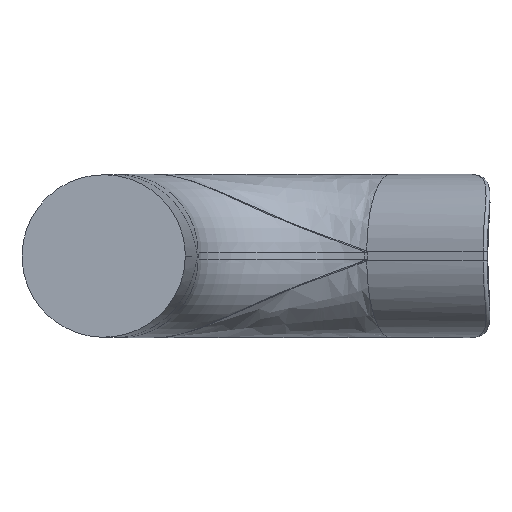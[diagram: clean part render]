
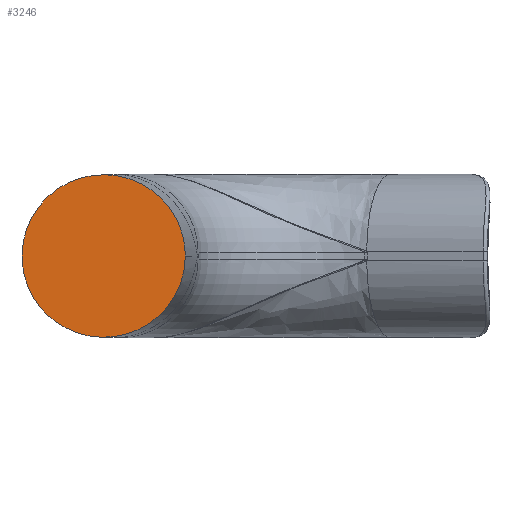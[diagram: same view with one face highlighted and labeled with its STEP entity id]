
A CAD part, front view. The second image highlights one B-rep face of the part: STEP entity #3246.
In plain terms, the highlighted planar face has unit normal (0, -1, 0).
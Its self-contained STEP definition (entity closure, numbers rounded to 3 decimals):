
#234 = ORIENTED_EDGE ( 'NONE', *, *, #7664, .F. ) ;
#283 = VERTEX_POINT ( 'NONE', #5299 ) ;
#373 = CARTESIAN_POINT ( 'NONE',  ( 25., 0., -49.787 ) ) ;
#457 = CARTESIAN_POINT ( 'NONE',  ( -25., 0., 0. ) ) ;
#631 = EDGE_LOOP ( 'NONE', ( #3850, #234 ) ) ;
#1147 = AXIS2_PLACEMENT_3D ( 'NONE', #2123, #5512, #2860 ) ;
#1844 =( BOUNDED_CURVE ( )  B_SPLINE_CURVE ( 3, ( #3076, #373, #5710, #457 ),
 .UNSPECIFIED., .F., .F. ) 
 B_SPLINE_CURVE_WITH_KNOTS ( ( 4, 4 ),
 ( 3.142, 6.283 ),
 .UNSPECIFIED. ) 
 CURVE ( )  GEOMETRIC_REPRESENTATION_ITEM ( )  RATIONAL_B_SPLINE_CURVE ( ( 1., 0.333, 0.333, 1. ) ) 
 REPRESENTATION_ITEM ( '' )  );
#1914 = CARTESIAN_POINT ( 'NONE',  ( 25., 0., 49.787 ) ) ;
#2123 = CARTESIAN_POINT ( 'NONE',  ( -25., 0., -25. ) ) ;
#2860 = DIRECTION ( 'NONE',  ( -1., 0., 0. ) ) ;
#3076 = CARTESIAN_POINT ( 'NONE',  ( 25., 0., 0. ) ) ;
#3154 = CARTESIAN_POINT ( 'NONE',  ( -25., 0., 49.787 ) ) ;
#3246 = ADVANCED_FACE ( 'NONE', ( #4616 ), #6897, .F. ) ;
#3850 = ORIENTED_EDGE ( 'NONE', *, *, #7630, .F. ) ;
#4616 = FACE_OUTER_BOUND ( 'NONE', #631, .T. ) ;
#5194 = CARTESIAN_POINT ( 'NONE',  ( 25., 0., 0. ) ) ;
#5299 = CARTESIAN_POINT ( 'NONE',  ( 25., 0., 0. ) ) ;
#5512 = DIRECTION ( 'NONE',  ( 0., 1., 0. ) ) ;
#5606 =( BOUNDED_CURVE ( )  B_SPLINE_CURVE ( 3, ( #5845, #3154, #1914, #5194 ),
 .UNSPECIFIED., .F., .F. ) 
 B_SPLINE_CURVE_WITH_KNOTS ( ( 4, 4 ),
 ( 0., 3.142 ),
 .UNSPECIFIED. ) 
 CURVE ( )  GEOMETRIC_REPRESENTATION_ITEM ( )  RATIONAL_B_SPLINE_CURVE ( ( 1., 0.333, 0.333, 1. ) ) 
 REPRESENTATION_ITEM ( '' )  );
#5710 = CARTESIAN_POINT ( 'NONE',  ( -25., 0., -49.787 ) ) ;
#5845 = CARTESIAN_POINT ( 'NONE',  ( -25., 0., 0. ) ) ;
#6897 = PLANE ( 'NONE',  #1147 ) ;
#6901 = CARTESIAN_POINT ( 'NONE',  ( -25., 0., 0. ) ) ;
#7630 = EDGE_CURVE ( 'NONE', #283, #8388, #1844, .T. ) ;
#7664 = EDGE_CURVE ( 'NONE', #8388, #283, #5606, .T. ) ;
#8388 = VERTEX_POINT ( 'NONE', #6901 ) ;
